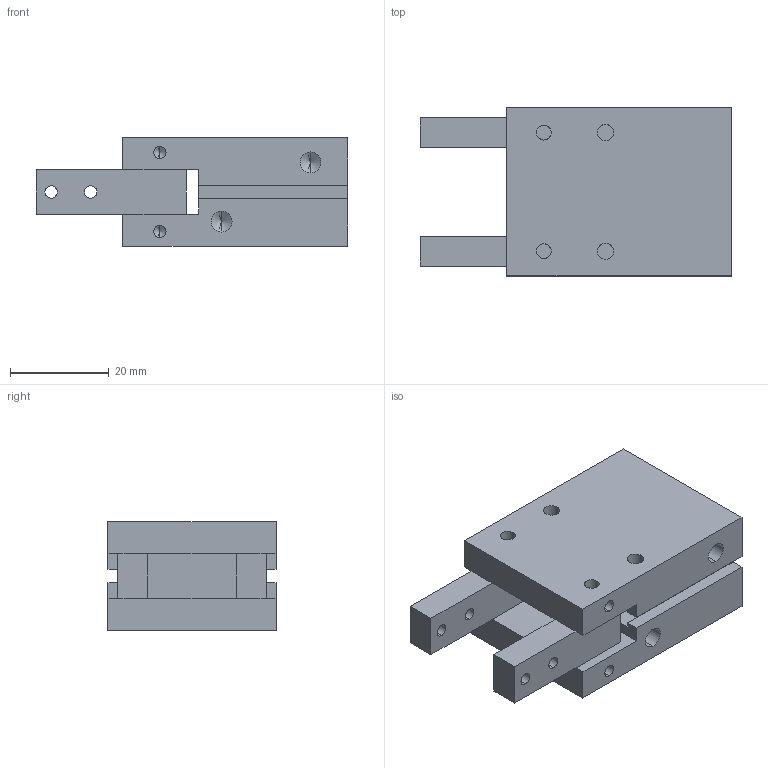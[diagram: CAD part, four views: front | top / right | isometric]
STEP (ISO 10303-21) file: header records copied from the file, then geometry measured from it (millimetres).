
FILE_DESCRIPTION (( 'STEP AP203' ), '1' );
FILE_NAME ('FCHY-16.STEP', '2016-03-29T06:21:28', ( 'Sam Lin' ), ( '' ), 'SwSTEP 2.0', 'SolidWorks 2013', '' );
FILE_SCHEMA (( 'CONFIG_CONTROL_DESIGN' ));
Length unit declared in the file: millimetre
Products named in the file (1): FCHY-16
Bounding box: 63 x 34 x 22 mm (x, y, z)
Volume: 29323.7 mm3; surface area: 11237.2 mm2
Topology: 1 solids, 1 shells, 113 faces, 302 edges, 182 vertices
Faces by surface type: cylinder 50, plane 43, cone 20
Entity records: 3849 total; most frequent: CARTESIAN_POINT 978, DIRECTION 578, ORIENTED_EDGE 564, EDGE_CURVE 282, AXIS2_PLACEMENT_3D 198, LINE 182, VECTOR 182, VERTEX_POINT 182
